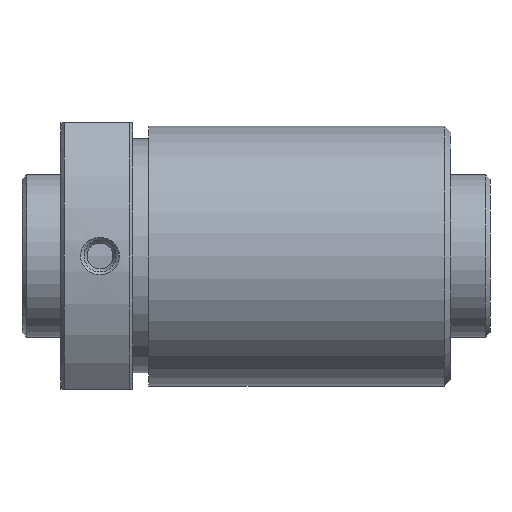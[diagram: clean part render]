
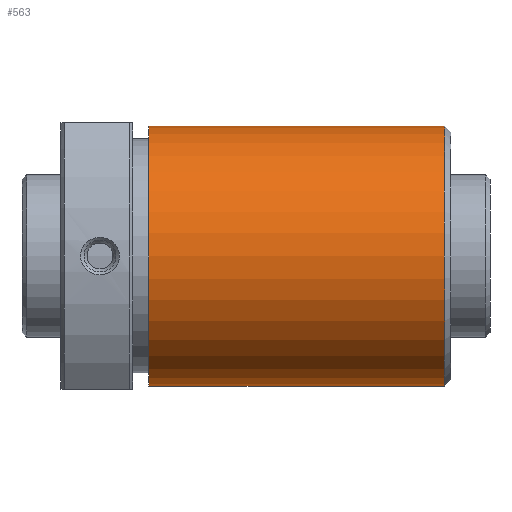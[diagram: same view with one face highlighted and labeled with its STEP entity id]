
A CAD part, front view. The second image highlights one B-rep face of the part: STEP entity #563.
In plain terms, the highlighted cylindrical face has radius 20 mm (diameter 40 mm), a full revolution.
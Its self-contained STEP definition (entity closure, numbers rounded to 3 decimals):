
#69=CYLINDRICAL_SURFACE('',#667,20.);
#169=ORIENTED_EDGE('',*,*,#257,.T.);
#170=ORIENTED_EDGE('',*,*,#256,.F.);
#256=EDGE_CURVE('',#308,#308,#350,.T.);
#257=EDGE_CURVE('',#309,#309,#351,.T.);
#308=VERTEX_POINT('',#1040);
#309=VERTEX_POINT('',#1043);
#350=CIRCLE('',#666,20.);
#351=CIRCLE('',#668,20.);
#417=EDGE_LOOP('',(#169));
#418=EDGE_LOOP('',(#170));
#499=FACE_BOUND('',#417,.T.);
#500=FACE_BOUND('',#418,.T.);
#563=ADVANCED_FACE('',(#499,#500),#69,.T.);
#666=AXIS2_PLACEMENT_3D('',#1039,#825,#826);
#667=AXIS2_PLACEMENT_3D('',#1041,#827,#828);
#668=AXIS2_PLACEMENT_3D('',#1042,#829,#830);
#825=DIRECTION('',(1.,0.,0.));
#826=DIRECTION('',(0.,0.,-1.));
#827=DIRECTION('',(1.,0.,0.));
#828=DIRECTION('',(0.,0.,-1.));
#829=DIRECTION('',(1.,0.,0.));
#830=DIRECTION('',(0.,0.,-1.));
#1039=CARTESIAN_POINT('',(59.,0.,0.));
#1040=CARTESIAN_POINT('',(59.,0.,-20.));
#1041=CARTESIAN_POINT('',(50.,0.,0.));
#1042=CARTESIAN_POINT('',(13.5,0.,0.));
#1043=CARTESIAN_POINT('',(13.5,0.,-20.));
